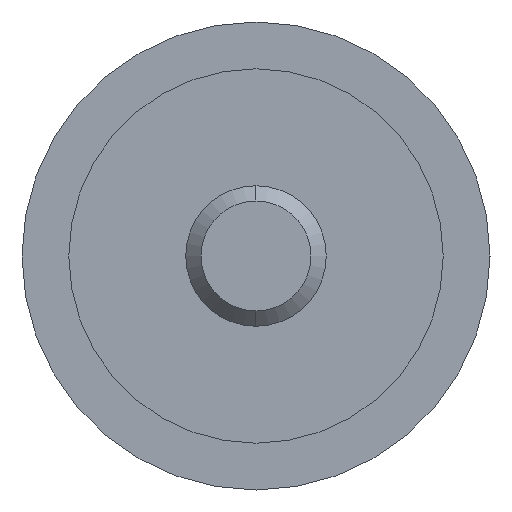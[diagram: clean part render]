
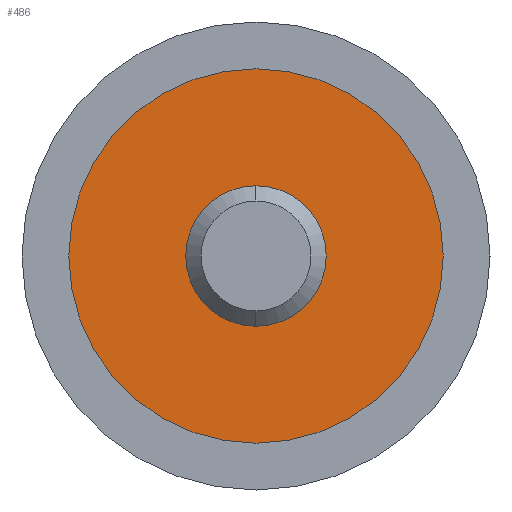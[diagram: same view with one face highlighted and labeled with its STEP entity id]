
A CAD part, left-side view. The second image highlights one B-rep face of the part: STEP entity #486.
In plain terms, the highlighted planar face has unit normal (-1, 0, 0).
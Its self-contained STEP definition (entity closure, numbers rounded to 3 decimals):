
#25 = CARTESIAN_POINT ( 'NONE',  ( -12.49, 0., -3. ) ) ;
#31 = FACE_BOUND ( 'NONE', #444, .T. ) ;
#45 = PLANE ( 'NONE',  #529 ) ;
#50 = EDGE_CURVE ( 'NONE', #514, #114, #86, .T. ) ;
#70 = CARTESIAN_POINT ( 'NONE',  ( -12.49, 0., 0. ) ) ;
#86 = CIRCLE ( 'NONE', #393, 8. ) ;
#92 = DIRECTION ( 'NONE',  ( -1., 0., 0. ) ) ;
#95 = DIRECTION ( 'NONE',  ( 0., 0., -1. ) ) ;
#114 = VERTEX_POINT ( 'NONE', #580 ) ;
#116 = EDGE_CURVE ( 'NONE', #114, #514, #297, .T. ) ;
#131 = AXIS2_PLACEMENT_3D ( 'NONE', #293, #604, #298 ) ;
#140 = CARTESIAN_POINT ( 'NONE',  ( -12.49, 0., 0. ) ) ;
#163 = AXIS2_PLACEMENT_3D ( 'NONE', #140, #92, #95 ) ;
#168 = VERTEX_POINT ( 'NONE', #25 ) ;
#206 = ORIENTED_EDGE ( 'NONE', *, *, #552, .F. ) ;
#212 = CARTESIAN_POINT ( 'NONE',  ( -12.49, 0., 0. ) ) ;
#214 = EDGE_CURVE ( 'NONE', #470, #168, #489, .T. ) ;
#238 = CARTESIAN_POINT ( 'NONE',  ( -12.49, 8., 0. ) ) ;
#293 = CARTESIAN_POINT ( 'NONE',  ( -12.49, 0., 0. ) ) ;
#294 = ORIENTED_EDGE ( 'NONE', *, *, #214, .F. ) ;
#297 = CIRCLE ( 'NONE', #439, 8. ) ;
#298 = DIRECTION ( 'NONE',  ( 0., 0., -1. ) ) ;
#319 = CIRCLE ( 'NONE', #163, 3. ) ;
#364 = DIRECTION ( 'NONE',  ( -1., 0., 0. ) ) ;
#389 = ORIENTED_EDGE ( 'NONE', *, *, #116, .T. ) ;
#393 = AXIS2_PLACEMENT_3D ( 'NONE', #70, #364, #525 ) ;
#400 = ORIENTED_EDGE ( 'NONE', *, *, #50, .T. ) ;
#439 = AXIS2_PLACEMENT_3D ( 'NONE', #212, #614, #531 ) ;
#443 = FACE_OUTER_BOUND ( 'NONE', #448, .T. ) ;
#444 = EDGE_LOOP ( 'NONE', ( #294, #206 ) ) ;
#448 = EDGE_LOOP ( 'NONE', ( #400, #389 ) ) ;
#470 = VERTEX_POINT ( 'NONE', #598 ) ;
#486 = ADVANCED_FACE ( 'NONE', ( #443, #31 ), #45, .F. ) ;
#489 = CIRCLE ( 'NONE', #131, 3. ) ;
#514 = VERTEX_POINT ( 'NONE', #557 ) ;
#525 = DIRECTION ( 'NONE',  ( 0., 0., 1. ) ) ;
#529 = AXIS2_PLACEMENT_3D ( 'NONE', #238, #554, #671 ) ;
#531 = DIRECTION ( 'NONE',  ( 0., 0., 1. ) ) ;
#552 = EDGE_CURVE ( 'NONE', #168, #470, #319, .T. ) ;
#554 = DIRECTION ( 'NONE',  ( 1., 0., 0. ) ) ;
#557 = CARTESIAN_POINT ( 'NONE',  ( -12.49, 0., 8. ) ) ;
#580 = CARTESIAN_POINT ( 'NONE',  ( -12.49, 0., -8. ) ) ;
#598 = CARTESIAN_POINT ( 'NONE',  ( -12.49, 0., 3. ) ) ;
#604 = DIRECTION ( 'NONE',  ( -1., 0., 0. ) ) ;
#614 = DIRECTION ( 'NONE',  ( -1., 0., 0. ) ) ;
#671 = DIRECTION ( 'NONE',  ( 0., 0., -1. ) ) ;
